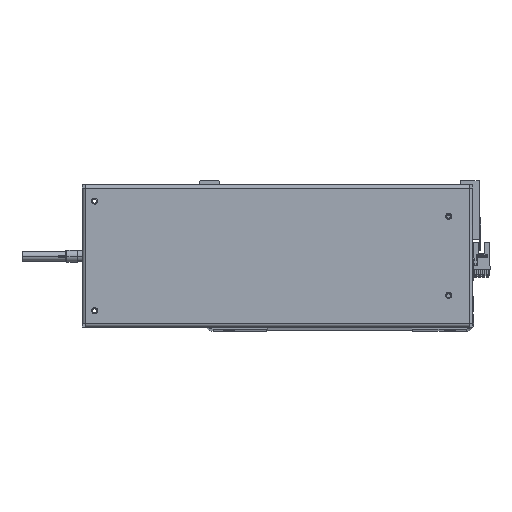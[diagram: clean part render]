
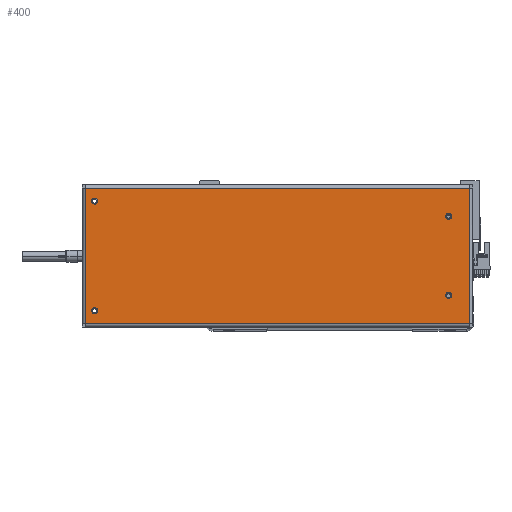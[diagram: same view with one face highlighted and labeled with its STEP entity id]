
A CAD part, top view. The second image highlights one B-rep face of the part: STEP entity #400.
In plain terms, the highlighted planar face has unit normal (0, 0, 1).
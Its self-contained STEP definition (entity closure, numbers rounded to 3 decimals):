
#26 = ORIENTED_EDGE ( 'NONE', *, *, #9600, .F. ) ;
#30 = CARTESIAN_POINT ( 'NONE',  ( 150.5, -45., 0. ) ) ;
#265 = CARTESIAN_POINT ( 'NONE',  ( 150.5, 45., 0. ) ) ;
#271 = DIRECTION ( 'NONE',  ( 0., 0., 1. ) ) ;
#400 = ADVANCED_FACE ( 'NONE', ( #3664, #10385, #8474, #2280, #15183 ), #3143, .F. ) ;
#879 = ORIENTED_EDGE ( 'NONE', *, *, #28613, .T. ) ;
#962 = ORIENTED_EDGE ( 'NONE', *, *, #6384, .F. ) ;
#1293 = CARTESIAN_POINT ( 'NONE',  ( 157.6, -55.6, 0. ) ) ;
#1861 = CARTESIAN_POINT ( 'NONE',  ( 150.5, -45., 0. ) ) ;
#2280 = FACE_BOUND ( 'NONE', #36707, .T. ) ;
#2717 = AXIS2_PLACEMENT_3D ( 'NONE', #21317, #39561, #21191 ) ;
#3052 = EDGE_CURVE ( 'NONE', #30670, #15416, #31104, .T. ) ;
#3143 = PLANE ( 'NONE',  #5390 ) ;
#3555 = CIRCLE ( 'NONE', #11813, 2.5 ) ;
#3664 = FACE_BOUND ( 'NONE', #8469, .T. ) ;
#4492 = VECTOR ( 'NONE', #38118, 1000. ) ;
#4640 = AXIS2_PLACEMENT_3D ( 'NONE', #15492, #271, #21660 ) ;
#4812 = DIRECTION ( 'NONE',  ( 0., 0., 1. ) ) ;
#5040 = CARTESIAN_POINT ( 'NONE',  ( -157.6, 55.6, 0. ) ) ;
#5390 = AXIS2_PLACEMENT_3D ( 'NONE', #21589, #18755, #12574 ) ;
#5589 = AXIS2_PLACEMENT_3D ( 'NONE', #28909, #13636, #35114 ) ;
#5701 = CARTESIAN_POINT ( 'NONE',  ( 148., 45., 0. ) ) ;
#6197 = DIRECTION ( 'NONE',  ( 0., 0., 1. ) ) ;
#6384 = EDGE_CURVE ( 'NONE', #11496, #10697, #23762, .T. ) ;
#6422 = DIRECTION ( 'NONE',  ( 1., 0., 0. ) ) ;
#7667 = EDGE_CURVE ( 'NONE', #9316, #26213, #28438, .T. ) ;
#8469 = EDGE_LOOP ( 'NONE', ( #21955, #14253 ) ) ;
#8474 = FACE_BOUND ( 'NONE', #34888, .T. ) ;
#8513 = EDGE_CURVE ( 'NONE', #13805, #30400, #24969, .T. ) ;
#9316 = VERTEX_POINT ( 'NONE', #35272 ) ;
#9600 = EDGE_CURVE ( 'NONE', #15416, #30670, #34235, .T. ) ;
#9630 = DIRECTION ( 'NONE',  ( 1., 0., 0. ) ) ;
#10007 = ORIENTED_EDGE ( 'NONE', *, *, #39004, .F. ) ;
#10385 = FACE_BOUND ( 'NONE', #22302, .T. ) ;
#10697 = VERTEX_POINT ( 'NONE', #12392 ) ;
#10894 = ORIENTED_EDGE ( 'NONE', *, *, #3052, .F. ) ;
#10937 = VERTEX_POINT ( 'NONE', #18935 ) ;
#11496 = VERTEX_POINT ( 'NONE', #30542 ) ;
#11813 = AXIS2_PLACEMENT_3D ( 'NONE', #17548, #23837, #29983 ) ;
#12026 = CARTESIAN_POINT ( 'NONE',  ( 157.6, -55.6, 0. ) ) ;
#12040 = AXIS2_PLACEMENT_3D ( 'NONE', #265, #6197, #6422 ) ;
#12390 = EDGE_CURVE ( 'NONE', #18592, #35185, #37210, .T. ) ;
#12392 = CARTESIAN_POINT ( 'NONE',  ( -138., 32.5, 0. ) ) ;
#12434 = CARTESIAN_POINT ( 'NONE',  ( -140.5, -32.5, 0. ) ) ;
#12574 = DIRECTION ( 'NONE',  ( -1., 0., 0. ) ) ;
#13636 = DIRECTION ( 'NONE',  ( 0., 0., 1. ) ) ;
#13805 = VERTEX_POINT ( 'NONE', #30350 ) ;
#14253 = ORIENTED_EDGE ( 'NONE', *, *, #38396, .F. ) ;
#14300 = LINE ( 'NONE', #5040, #15755 ) ;
#15183 = FACE_OUTER_BOUND ( 'NONE', #29231, .T. ) ;
#15416 = VERTEX_POINT ( 'NONE', #18705 ) ;
#15492 = CARTESIAN_POINT ( 'NONE',  ( -140.5, -32.5, 0. ) ) ;
#15755 = VECTOR ( 'NONE', #17476, 1000. ) ;
#15756 = CARTESIAN_POINT ( 'NONE',  ( -157.6, 55.6, 0. ) ) ;
#16899 = VECTOR ( 'NONE', #33819, 1000. ) ;
#17239 = DIRECTION ( 'NONE',  ( 1., 0., 0. ) ) ;
#17476 = DIRECTION ( 'NONE',  ( 0., -1., 0. ) ) ;
#17548 = CARTESIAN_POINT ( 'NONE',  ( -140.5, 32.5, 0. ) ) ;
#17821 = DIRECTION ( 'NONE',  ( 0., 0., 1. ) ) ;
#17948 = DIRECTION ( 'NONE',  ( 1., 0., 0. ) ) ;
#18592 = VERTEX_POINT ( 'NONE', #5701 ) ;
#18705 = CARTESIAN_POINT ( 'NONE',  ( 153., -45., 0. ) ) ;
#18755 = DIRECTION ( 'NONE',  ( 0., 0., -1. ) ) ;
#18866 = CARTESIAN_POINT ( 'NONE',  ( -157.7, -55.6, 0. ) ) ;
#18935 = CARTESIAN_POINT ( 'NONE',  ( -157.6, -55.6, 0. ) ) ;
#21191 = DIRECTION ( 'NONE',  ( 1., 0., 0. ) ) ;
#21317 = CARTESIAN_POINT ( 'NONE',  ( 150.5, 45., 0. ) ) ;
#21450 = AXIS2_PLACEMENT_3D ( 'NONE', #30, #17821, #17948 ) ;
#21466 = CARTESIAN_POINT ( 'NONE',  ( 153., 45., 0. ) ) ;
#21589 = CARTESIAN_POINT ( 'NONE',  ( 157.7, 58.5, 0. ) ) ;
#21660 = DIRECTION ( 'NONE',  ( 1., 0., 0. ) ) ;
#21955 = ORIENTED_EDGE ( 'NONE', *, *, #8513, .F. ) ;
#22302 = EDGE_LOOP ( 'NONE', ( #10007, #962 ) ) ;
#22587 = CARTESIAN_POINT ( 'NONE',  ( 157.7, 55.6, 0. ) ) ;
#23762 = CIRCLE ( 'NONE', #5589, 2.5 ) ;
#23837 = DIRECTION ( 'NONE',  ( 0., 0., 1. ) ) ;
#24969 = CIRCLE ( 'NONE', #38946, 2.5 ) ;
#25009 = DIRECTION ( 'NONE',  ( 0., 0., 1. ) ) ;
#25155 = CIRCLE ( 'NONE', #4640, 2.5 ) ;
#25165 = AXIS2_PLACEMENT_3D ( 'NONE', #1861, #4812, #17239 ) ;
#26043 = ORIENTED_EDGE ( 'NONE', *, *, #7667, .T. ) ;
#26213 = VERTEX_POINT ( 'NONE', #15756 ) ;
#27033 = DIRECTION ( 'NONE',  ( 0., 1., 0. ) ) ;
#27601 = ORIENTED_EDGE ( 'NONE', *, *, #35262, .F. ) ;
#28438 = LINE ( 'NONE', #22587, #4492 ) ;
#28613 = EDGE_CURVE ( 'NONE', #26213, #10937, #14300, .T. ) ;
#28772 = CIRCLE ( 'NONE', #2717, 2.5 ) ;
#28909 = CARTESIAN_POINT ( 'NONE',  ( -140.5, 32.5, 0. ) ) ;
#29231 = EDGE_LOOP ( 'NONE', ( #879, #29565, #35779, #26043 ) ) ;
#29565 = ORIENTED_EDGE ( 'NONE', *, *, #33231, .T. ) ;
#29956 = ORIENTED_EDGE ( 'NONE', *, *, #12390, .F. ) ;
#29983 = DIRECTION ( 'NONE',  ( 1., 0., 0. ) ) ;
#30350 = CARTESIAN_POINT ( 'NONE',  ( -138., -32.5, 0. ) ) ;
#30400 = VERTEX_POINT ( 'NONE', #37280 ) ;
#30542 = CARTESIAN_POINT ( 'NONE',  ( -143., 32.5, 0. ) ) ;
#30670 = VERTEX_POINT ( 'NONE', #35405 ) ;
#30965 = LINE ( 'NONE', #12026, #35284 ) ;
#31104 = CIRCLE ( 'NONE', #25165, 2.5 ) ;
#31499 = VERTEX_POINT ( 'NONE', #1293 ) ;
#33231 = EDGE_CURVE ( 'NONE', #10937, #31499, #38493, .T. ) ;
#33819 = DIRECTION ( 'NONE',  ( 1., 0., 0. ) ) ;
#34235 = CIRCLE ( 'NONE', #21450, 2.5 ) ;
#34888 = EDGE_LOOP ( 'NONE', ( #26, #10894 ) ) ;
#35114 = DIRECTION ( 'NONE',  ( 1., 0., 0. ) ) ;
#35185 = VERTEX_POINT ( 'NONE', #21466 ) ;
#35262 = EDGE_CURVE ( 'NONE', #35185, #18592, #28772, .T. ) ;
#35272 = CARTESIAN_POINT ( 'NONE',  ( 157.6, 55.6, 0. ) ) ;
#35284 = VECTOR ( 'NONE', #27033, 1000. ) ;
#35405 = CARTESIAN_POINT ( 'NONE',  ( 148., -45., 0. ) ) ;
#35779 = ORIENTED_EDGE ( 'NONE', *, *, #38345, .T. ) ;
#36707 = EDGE_LOOP ( 'NONE', ( #27601, #29956 ) ) ;
#37210 = CIRCLE ( 'NONE', #12040, 2.5 ) ;
#37280 = CARTESIAN_POINT ( 'NONE',  ( -143., -32.5, 0. ) ) ;
#38118 = DIRECTION ( 'NONE',  ( -1., 0., 0. ) ) ;
#38345 = EDGE_CURVE ( 'NONE', #31499, #9316, #30965, .T. ) ;
#38396 = EDGE_CURVE ( 'NONE', #30400, #13805, #25155, .T. ) ;
#38493 = LINE ( 'NONE', #18866, #16899 ) ;
#38946 = AXIS2_PLACEMENT_3D ( 'NONE', #12434, #25009, #9630 ) ;
#39004 = EDGE_CURVE ( 'NONE', #10697, #11496, #3555, .T. ) ;
#39561 = DIRECTION ( 'NONE',  ( 0., 0., 1. ) ) ;
